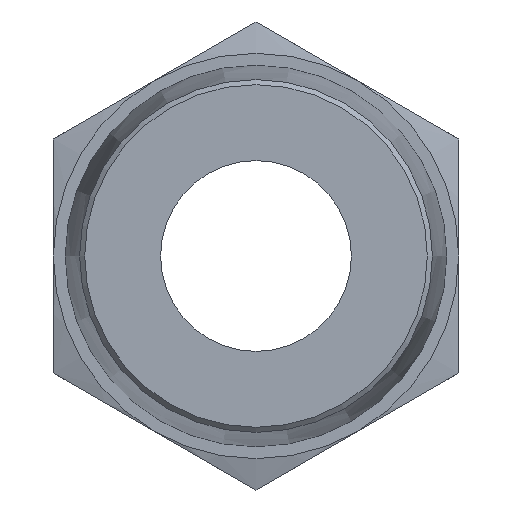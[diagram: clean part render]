
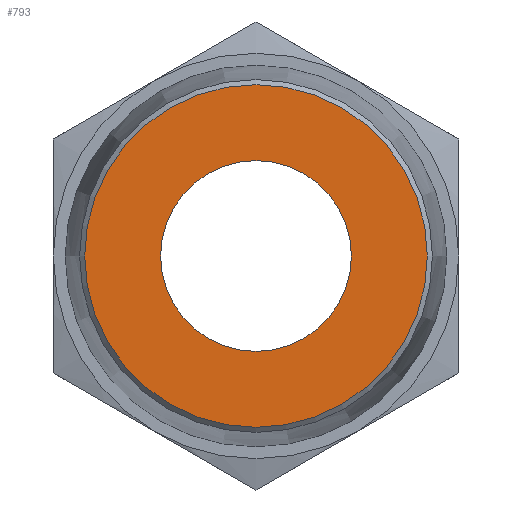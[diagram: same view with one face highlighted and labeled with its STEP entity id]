
A CAD part, front view. The second image highlights one B-rep face of the part: STEP entity #793.
In plain terms, the highlighted planar face has unit normal (0, -1, 0).
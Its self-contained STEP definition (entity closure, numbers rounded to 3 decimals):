
#15=FACE_BOUND('',#142,.T.);
#92=FACE_OUTER_BOUND('',#141,.T.);
#141=EDGE_LOOP('',(#611));
#142=EDGE_LOOP('',(#612));
#188=CIRCLE('',#878,7.187);
#190=CIRCLE('',#882,4.);
#370=VERTEX_POINT('',#1311);
#372=VERTEX_POINT('',#1319);
#461=EDGE_CURVE('',#370,#370,#188,.T.);
#464=EDGE_CURVE('',#372,#372,#190,.T.);
#611=ORIENTED_EDGE('',*,*,#461,.F.);
#612=ORIENTED_EDGE('',*,*,#464,.T.);
#761=PLANE('',#881);
#793=ADVANCED_FACE('',(#92,#15),#761,.T.);
#878=AXIS2_PLACEMENT_3D('',#1313,#1045,#1046);
#881=AXIS2_PLACEMENT_3D('',#1318,#1052,#1053);
#882=AXIS2_PLACEMENT_3D('',#1320,#1054,#1055);
#1045=DIRECTION('center_axis',(0.,1.,0.));
#1046=DIRECTION('ref_axis',(-1.,0.,0.));
#1052=DIRECTION('center_axis',(0.,-1.,0.));
#1053=DIRECTION('ref_axis',(0.,0.,-1.));
#1054=DIRECTION('center_axis',(0.,1.,0.));
#1055=DIRECTION('ref_axis',(1.,0.,0.));
#1311=CARTESIAN_POINT('',(7.187,-9.8,0.));
#1313=CARTESIAN_POINT('Origin',(0.,-9.8,0.));
#1318=CARTESIAN_POINT('Origin',(7.387,-9.8,0.));
#1319=CARTESIAN_POINT('',(-4.,-9.8,0.));
#1320=CARTESIAN_POINT('Origin',(0.,-9.8,0.));
